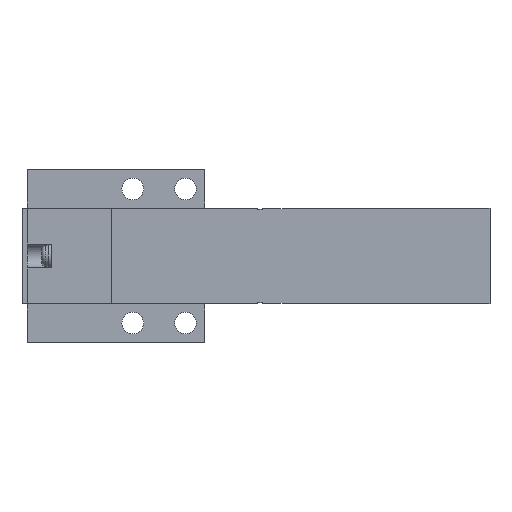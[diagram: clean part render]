
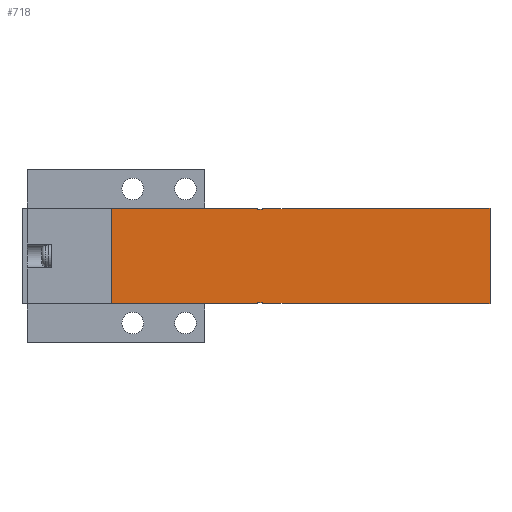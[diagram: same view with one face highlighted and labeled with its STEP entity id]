
A CAD part, front view. The second image highlights one B-rep face of the part: STEP entity #718.
In plain terms, the highlighted planar face has unit normal (0, -1, 0).
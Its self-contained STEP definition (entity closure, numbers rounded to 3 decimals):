
#718=ADVANCED_FACE('',(#1609),#1610,.F.);
#1609=FACE_OUTER_BOUND('',#2577,.T.);
#1610=PLANE('',#2578);
#2577=EDGE_LOOP('',(#5850,#5851,#5852,#5853,#5854,#5855,#5856,#5857,#5858,#5859,#5860,#5861,#5862,#5863,#5864,#5865,#5866,#5867,#5868,#5869,#5870,#5871,#5872,#5873));
#2578=AXIS2_PLACEMENT_3D('',#5874,#5875,#5876);
#5850=ORIENTED_EDGE('',*,*,#7124,.F.);
#5851=ORIENTED_EDGE('',*,*,#7137,.T.);
#5852=ORIENTED_EDGE('',*,*,#7039,.T.);
#5853=ORIENTED_EDGE('',*,*,#7116,.F.);
#5854=ORIENTED_EDGE('',*,*,#7226,.F.);
#5855=ORIENTED_EDGE('',*,*,#7057,.T.);
#5856=ORIENTED_EDGE('',*,*,#7225,.F.);
#5857=ORIENTED_EDGE('',*,*,#7193,.T.);
#5858=ORIENTED_EDGE('',*,*,#7128,.F.);
#5859=ORIENTED_EDGE('',*,*,#7212,.T.);
#5860=ORIENTED_EDGE('',*,*,#7188,.T.);
#5861=ORIENTED_EDGE('',*,*,#7143,.T.);
#5862=ORIENTED_EDGE('',*,*,#7227,.T.);
#5863=ORIENTED_EDGE('',*,*,#7109,.F.);
#5864=ORIENTED_EDGE('',*,*,#7228,.T.);
#5865=ORIENTED_EDGE('',*,*,#7118,.F.);
#5866=ORIENTED_EDGE('',*,*,#7001,.T.);
#5867=ORIENTED_EDGE('',*,*,#7136,.T.);
#5868=ORIENTED_EDGE('',*,*,#7100,.T.);
#5869=ORIENTED_EDGE('',*,*,#6976,.T.);
#5870=ORIENTED_EDGE('',*,*,#7229,.T.);
#5871=ORIENTED_EDGE('',*,*,#7023,.F.);
#5872=ORIENTED_EDGE('',*,*,#7220,.F.);
#5873=ORIENTED_EDGE('',*,*,#7190,.F.);
#5874=CARTESIAN_POINT('',(18.6,0.0,10.0));
#5875=DIRECTION('',(-0.0,1.0,0.0));
#5876=DIRECTION('',(1.0,0.0,0.0));
#6976=EDGE_CURVE('',#8610,#8608,#8611,.T.);
#7001=EDGE_CURVE('',#8652,#8657,#8659,.T.);
#7023=EDGE_CURVE('',#8699,#8694,#8701,.T.);
#7039=EDGE_CURVE('',#8725,#8729,#8731,.T.);
#7057=EDGE_CURVE('',#8762,#8760,#8763,.T.);
#7100=EDGE_CURVE('',#8830,#8610,#8831,.T.);
#7109=EDGE_CURVE('',#8843,#8845,#8846,.T.);
#7116=EDGE_CURVE('',#8854,#8729,#8855,.T.);
#7118=EDGE_CURVE('',#8652,#8857,#8858,.T.);
#7124=EDGE_CURVE('',#8865,#8868,#8869,.T.);
#7128=EDGE_CURVE('',#8873,#8875,#8876,.T.);
#7136=EDGE_CURVE('',#8657,#8830,#8888,.T.);
#7137=EDGE_CURVE('',#8865,#8725,#8889,.T.);
#7143=EDGE_CURVE('',#8901,#8899,#8902,.T.);
#7188=EDGE_CURVE('',#8970,#8901,#8971,.T.);
#7190=EDGE_CURVE('',#8868,#8973,#8974,.T.);
#7193=EDGE_CURVE('',#8978,#8875,#8979,.T.);
#7212=EDGE_CURVE('',#8873,#8970,#9000,.T.);
#7220=EDGE_CURVE('',#8973,#8699,#9010,.T.);
#7225=EDGE_CURVE('',#8978,#8760,#9015,.T.);
#7226=EDGE_CURVE('',#8762,#8854,#9016,.T.);
#7227=EDGE_CURVE('',#8899,#8845,#9017,.T.);
#7228=EDGE_CURVE('',#8843,#8857,#9018,.T.);
#7229=EDGE_CURVE('',#8608,#8694,#9019,.T.);
#8608=VERTEX_POINT('',#11216);
#8610=VERTEX_POINT('',#11219);
#8611=LINE('',#11220,#11221);
#8652=VERTEX_POINT('',#11305);
#8657=VERTEX_POINT('',#11312);
#8659=LINE('',#11315,#11316);
#8694=VERTEX_POINT('',#11369);
#8699=VERTEX_POINT('',#11376);
#8701=LINE('',#11379,#11380);
#8725=VERTEX_POINT('',#11415);
#8729=VERTEX_POINT('',#11421);
#8731=LINE('',#11424,#11425);
#8760=VERTEX_POINT('',#11467);
#8762=VERTEX_POINT('',#11470);
#8763=LINE('',#11471,#11472);
#8830=VERTEX_POINT('',#11575);
#8831=LINE('',#11576,#11577);
#8843=VERTEX_POINT('',#11596);
#8845=VERTEX_POINT('',#11599);
#8846=LINE('',#11600,#11601);
#8854=VERTEX_POINT('',#11636);
#8855=LINE('',#11637,#11638);
#8857=VERTEX_POINT('',#11641);
#8858=LINE('',#11642,#11643);
#8865=VERTEX_POINT('',#11654);
#8868=VERTEX_POINT('',#11658);
#8869=LINE('',#11659,#11660);
#8873=VERTEX_POINT('',#11666);
#8875=VERTEX_POINT('',#11669);
#8876=LINE('',#11670,#11671);
#8888=LINE('',#11690,#11691);
#8889=LINE('',#11692,#11693);
#8899=VERTEX_POINT('',#11707);
#8901=VERTEX_POINT('',#11710);
#8902=LINE('',#11711,#11712);
#8970=VERTEX_POINT('',#11818);
#8971=LINE('',#11819,#11820);
#8973=VERTEX_POINT('',#11823);
#8974=LINE('',#11824,#11825);
#8978=VERTEX_POINT('',#11831);
#8979=LINE('',#11832,#11833);
#9000=LINE('',#11870,#11871);
#9010=LINE('',#11888,#11889);
#9015=LINE('',#11898,#11899);
#9016=LINE('',#11900,#11901);
#9017=LINE('',#11902,#11903);
#9018=LINE('',#11904,#11905);
#9019=LINE('',#11906,#11907);
#11216=CARTESIAN_POINT('',(55.1,0.0,-10.0));
#11219=CARTESIAN_POINT('',(55.1,0.0,-9.9));
#11220=CARTESIAN_POINT('',(55.1,0.0,-9.9));
#11221=VECTOR('',#13106,1.0);
#11305=CARTESIAN_POINT('',(49.1,0.0,-9.8));
#11312=CARTESIAN_POINT('',(50.1,0.0,-9.8));
#11315=CARTESIAN_POINT('',(18.6,0.0,-9.8));
#11316=VECTOR('',#13138,1.0);
#11369=CARTESIAN_POINT('',(97.6,0.0,-10.0));
#11376=CARTESIAN_POINT('',(97.6,0.0,10.0));
#11379=CARTESIAN_POINT('',(97.6,0.0,10.0));
#11380=VECTOR('',#13160,1.0);
#11415=CARTESIAN_POINT('',(50.1,0.0,9.8));
#11421=CARTESIAN_POINT('',(49.1,0.0,9.8));
#11424=CARTESIAN_POINT('',(18.6,0.0,9.8));
#11425=VECTOR('',#13178,1.0);
#11467=CARTESIAN_POINT('',(44.1,0.0,10.0));
#11470=CARTESIAN_POINT('',(44.1,0.0,9.9));
#11471=CARTESIAN_POINT('',(44.1,0.0,9.9));
#11472=VECTOR('',#13202,1.0);
#11575=CARTESIAN_POINT('',(50.1,0.0,-9.9));
#11576=CARTESIAN_POINT('',(44.1,0.0,-9.9));
#11577=VECTOR('',#13257,1.0);
#11596=CARTESIAN_POINT('',(44.1,0.0,-9.9));
#11599=CARTESIAN_POINT('',(44.1,0.0,-10.0));
#11600=CARTESIAN_POINT('',(44.1,0.0,-9.9));
#11601=VECTOR('',#13266,1.0);
#11636=CARTESIAN_POINT('',(49.1,0.0,9.9));
#11637=CARTESIAN_POINT('',(49.1,0.0,10.0));
#11638=VECTOR('',#13271,1.0);
#11641=CARTESIAN_POINT('',(49.1,0.0,-9.9));
#11642=CARTESIAN_POINT('',(49.1,0.0,10.0));
#11643=VECTOR('',#13273,1.0);
#11654=CARTESIAN_POINT('',(50.1,0.0,9.9));
#11658=CARTESIAN_POINT('',(55.1,0.0,9.9));
#11659=CARTESIAN_POINT('',(44.1,0.0,9.9));
#11660=VECTOR('',#13279,1.0);
#11666=CARTESIAN_POINT('',(18.6,0.0,9.9));
#11669=CARTESIAN_POINT('',(35.1,0.0,9.9));
#11670=CARTESIAN_POINT('',(18.6,0.0,9.9));
#11671=VECTOR('',#13283,1.0);
#11690=CARTESIAN_POINT('',(50.1,0.0,10.0));
#11691=VECTOR('',#13291,1.0);
#11692=CARTESIAN_POINT('',(50.1,0.0,10.0));
#11693=VECTOR('',#13292,1.0);
#11707=CARTESIAN_POINT('',(35.1,0.0,-10.0));
#11710=CARTESIAN_POINT('',(35.1,0.0,-9.9));
#11711=CARTESIAN_POINT('',(35.1,0.0,-9.9));
#11712=VECTOR('',#13298,1.0);
#11818=CARTESIAN_POINT('',(18.6,0.0,-9.9));
#11819=CARTESIAN_POINT('',(18.6,0.0,-9.9));
#11820=VECTOR('',#13355,1.0);
#11823=CARTESIAN_POINT('',(55.1,0.0,10.0));
#11824=CARTESIAN_POINT('',(55.1,0.0,9.9));
#11825=VECTOR('',#13357,1.0);
#11831=CARTESIAN_POINT('',(35.1,0.0,10.0));
#11832=CARTESIAN_POINT('',(35.1,0.0,10.1));
#11833=VECTOR('',#13360,1.0);
#11870=CARTESIAN_POINT('',(18.6,0.0,10.0));
#11871=VECTOR('',#13383,1.0);
#11888=CARTESIAN_POINT('',(18.6,0.0,10.0));
#11889=VECTOR('',#13391,1.0);
#11898=CARTESIAN_POINT('',(18.6,0.0,10.0));
#11899=VECTOR('',#13396,1.0);
#11900=CARTESIAN_POINT('',(44.1,0.0,9.9));
#11901=VECTOR('',#13397,1.0);
#11902=CARTESIAN_POINT('',(18.6,0.0,-10.0));
#11903=VECTOR('',#13398,1.0);
#11904=CARTESIAN_POINT('',(44.1,0.0,-9.9));
#11905=VECTOR('',#13399,1.0);
#11906=CARTESIAN_POINT('',(18.6,0.0,-10.0));
#11907=VECTOR('',#13400,1.0);
#13106=DIRECTION('',(0.0,0.0,-1.0));
#13138=DIRECTION('',(1.0,0.0,0.0));
#13160=DIRECTION('',(0.0,0.0,-1.0));
#13178=DIRECTION('',(-1.0,0.0,0.0));
#13202=DIRECTION('',(0.0,0.0,1.0));
#13257=DIRECTION('',(1.0,0.0,0.0));
#13266=DIRECTION('',(0.0,0.0,-1.0));
#13271=DIRECTION('',(0.0,0.0,-1.0));
#13273=DIRECTION('',(0.0,0.0,-1.0));
#13279=DIRECTION('',(1.0,0.0,0.0));
#13283=DIRECTION('',(1.0,0.0,0.0));
#13291=DIRECTION('',(0.0,0.0,-1.0));
#13292=DIRECTION('',(0.0,0.0,-1.0));
#13298=DIRECTION('',(0.0,0.0,-1.0));
#13355=DIRECTION('',(1.0,0.0,0.0));
#13357=DIRECTION('',(0.0,0.0,1.0));
#13360=DIRECTION('',(0.0,0.0,-1.0));
#13383=DIRECTION('',(0.0,0.0,-1.0));
#13391=DIRECTION('',(1.0,0.0,0.0));
#13396=DIRECTION('',(1.0,0.0,0.0));
#13397=DIRECTION('',(1.0,0.0,0.0));
#13398=DIRECTION('',(1.0,0.0,0.0));
#13399=DIRECTION('',(1.0,0.0,0.0));
#13400=DIRECTION('',(1.0,0.0,0.0));
